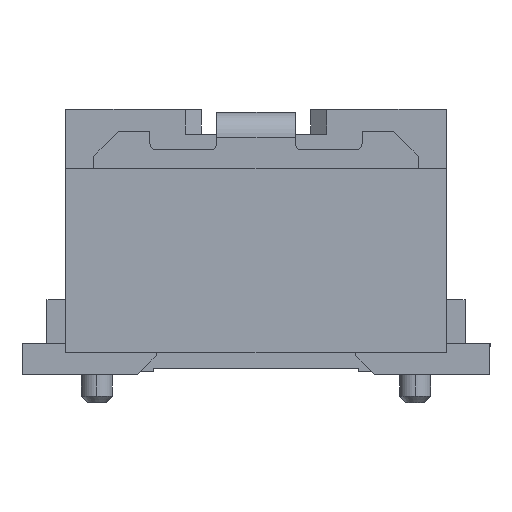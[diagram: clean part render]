
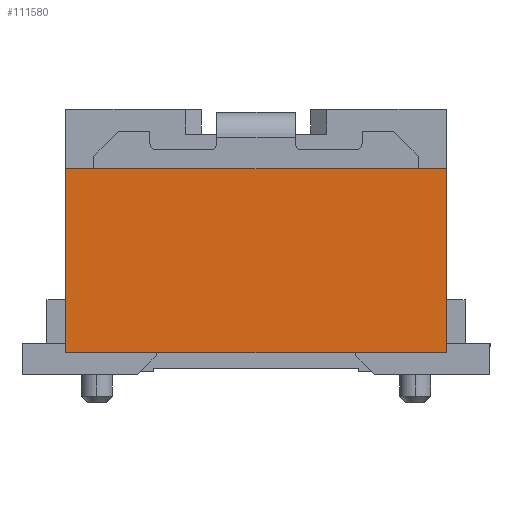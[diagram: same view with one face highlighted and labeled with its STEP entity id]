
A CAD part, left-side view. The second image highlights one B-rep face of the part: STEP entity #111580.
In plain terms, the highlighted planar face has unit normal (-1, 0, 0) as drawn and (1, 0, 0) by its records, which use the part's own axes.
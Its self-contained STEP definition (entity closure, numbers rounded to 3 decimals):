
#110350=CARTESIAN_POINT('',(13.013,-0.5,
-3.7));
#110360=VERTEX_POINT('',#110350);
#110450=CARTESIAN_POINT('',(13.013,-3.45,
-3.7));
#110460=VERTEX_POINT('',#110450);
#110490=CARTESIAN_POINT('',(13.013,0.,-3.7));
#110500=DIRECTION('',(0.,-1.,0.));
#110510=VECTOR('',#110500,1.);
#110520=LINE('',#110490,#110510);
#110530=EDGE_CURVE('',#110360,#110460,#110520,.T.);
#111280=CARTESIAN_POINT('',(13.013,-0.426,
-3.853));
#111290=DIRECTION('',(1.,0.,0.));
#111300=DIRECTION('',(0.,-1.,0.));
#111310=AXIS2_PLACEMENT_3D('',#111280,#111290,#111300);
#111320=PLANE('',#111310);
#111330=CARTESIAN_POINT('',(13.013,-3.45,0.));
#111340=DIRECTION('',(0.,0.,1.));
#111350=VECTOR('',#111340,1.);
#111360=LINE('',#111330,#111350);
#111370=CARTESIAN_POINT('',(13.013,-3.45,
2.4));
#111380=VERTEX_POINT('',#111370);
#111390=EDGE_CURVE('',#110460,#111380,#111360,.T.);
#111400=ORIENTED_EDGE('',*,*,#111390,.F.);
#111410=CARTESIAN_POINT('',(13.013,0.,2.4));
#111420=DIRECTION('',(0.,1.,0.));
#111430=VECTOR('',#111420,1.);
#111440=LINE('',#111410,#111430);
#111450=CARTESIAN_POINT('',(13.013,-0.5,
2.4));
#111460=VERTEX_POINT('',#111450);
#111470=EDGE_CURVE('',#111380,#111460,#111440,.T.);
#111480=ORIENTED_EDGE('',*,*,#111470,.F.);
#111490=CARTESIAN_POINT('',(13.013,-0.5,0.));
#111500=DIRECTION('',(0.,0.,-1.));
#111510=VECTOR('',#111500,1.);
#111520=LINE('',#111490,#111510);
#111530=EDGE_CURVE('',#111460,#110360,#111520,.T.);
#111540=ORIENTED_EDGE('',*,*,#111530,.F.);
#111550=ORIENTED_EDGE('',*,*,#110530,.F.);
#111560=EDGE_LOOP('',(#111550,#111540,#111480,#111400));
#111570=FACE_OUTER_BOUND('',#111560,.T.);
#111580=ADVANCED_FACE('',(#111570),#111320,.T.);
